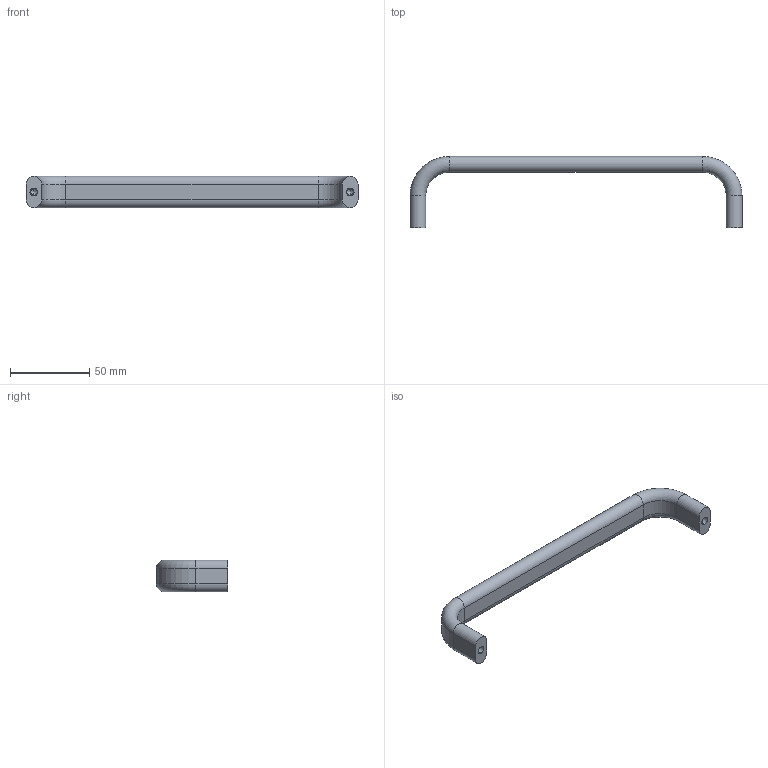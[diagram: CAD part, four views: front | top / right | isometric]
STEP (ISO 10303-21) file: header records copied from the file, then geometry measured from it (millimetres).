
FILE_DESCRIPTION (( 'STEP AP203' ), '1' );
FILE_NAME ('7803.W200-4.step', '2010-02-11T18:09:58', ( 'Wixroyd' ), ( 'Wixroyd' ), 'SwSTEP 2.0', 'SolidWorks 2009', '' );
FILE_SCHEMA (( 'CONFIG_CONTROL_DESIGN' ));
Length unit declared in the file: millimetre
Products named in the file (1): 7803.W200-4
Bounding box: 210 x 45 x 20 mm (x, y, z)
Volume: 46452.8 mm3; surface area: 14255.2 mm2
Topology: 1 solids, 1 shells, 38 faces, 82 edges, 46 vertices
Faces by surface type: cylinder 20, plane 10, cone 4, torus 4
Entity records: 1075 total; most frequent: DIRECTION 196, CARTESIAN_POINT 163, ORIENTED_EDGE 156, AXIS2_PLACEMENT_3D 79, EDGE_CURVE 78, VERTEX_POINT 46, EDGE_LOOP 42, CIRCLE 40
